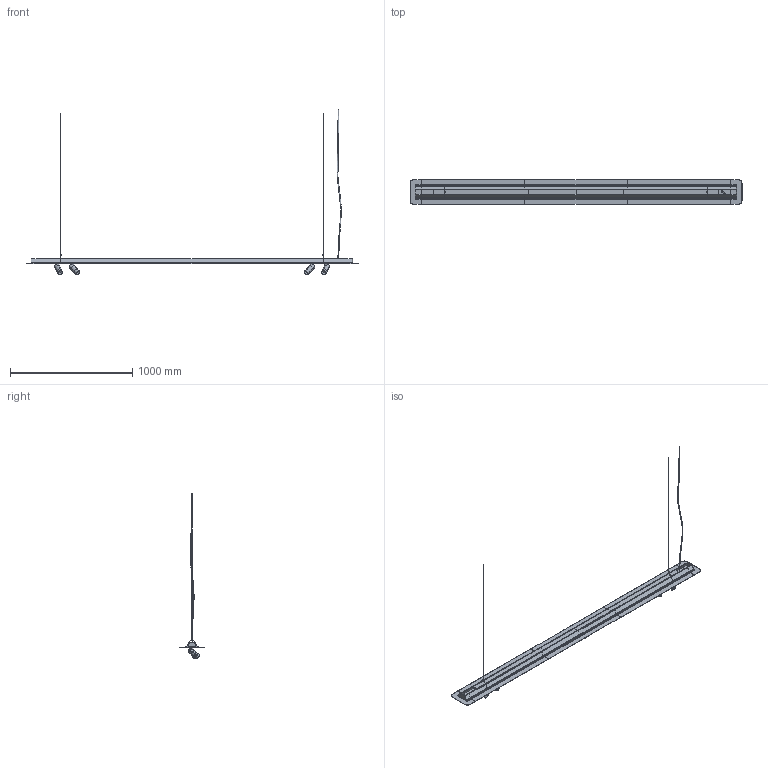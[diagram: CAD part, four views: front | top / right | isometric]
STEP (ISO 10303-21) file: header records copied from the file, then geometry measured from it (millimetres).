
FILE_DESCRIPTION(/* description */ (''),/* implementation_level */ '2;1');
FILE_NAME(/* name */ '1VLIDK~1',/* time_stamp */ '2026-03-05T15:23:00+01:00',/* author */ (''),/* organization */ (''),/* preprocessor_version */ 'ST-DEVELOPER v16.5',/* originating_system */ '',/* authorisation */ '');
FILE_SCHEMA (('AUTOMOTIVE_DESIGN'));
Products named in the file (1): Document
Bounding box: 2713 x 202.03 x 1354.05 mm (x, y, z)
Volume: 5009168 mm3; surface area: 2430944.3 mm2
Topology: 110 solids, 120 shells, 2217 faces, 5205 edges, 3204 vertices
Faces by surface type: bspline 2217
Entity records: 131488 total; most frequent: CARTESIAN_POINT 66931, B_SPLINE_CURVE_WITH_KNOTS 11041, ORIENTED_EDGE 10308, PCURVE 10308, DEFINITIONAL_REPRESENTATION 10308, SURFACE_CURVE 5197, EDGE_CURVE 5197, VERTEX_POINT 3204
